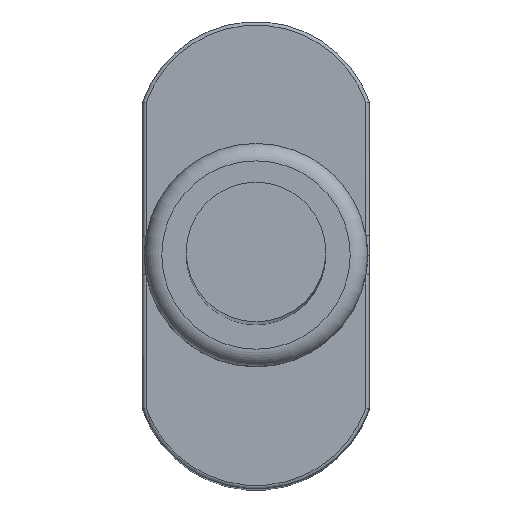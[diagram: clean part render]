
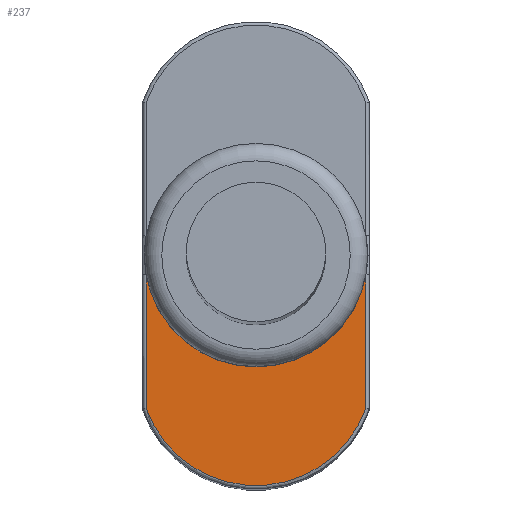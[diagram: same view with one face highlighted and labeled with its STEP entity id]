
A CAD part, top view. The second image highlights one B-rep face of the part: STEP entity #237.
In plain terms, the highlighted planar face has unit normal (0, 0, 1).
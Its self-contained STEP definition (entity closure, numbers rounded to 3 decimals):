
#60 = VERTEX_POINT('',#61);
#61 = CARTESIAN_POINT('',(3.15,-0.563,22.));
#70 = EDGE_CURVE('',#71,#60,#73,.T.);
#71 = VERTEX_POINT('',#72);
#72 = CARTESIAN_POINT('',(-3.15,-0.563,22.));
#73 = CIRCLE('',#74,3.2);
#74 = AXIS2_PLACEMENT_3D('',#75,#76,#77);
#75 = CARTESIAN_POINT('',(0.,0.,22.));
#76 = DIRECTION('',(0.,0.,1.));
#77 = DIRECTION('',(1.,0.,0.));
#237 = ADVANCED_FACE('',(#238),#264,.T.);
#238 = FACE_BOUND('',#239,.T.);
#239 = EDGE_LOOP('',(#240,#241,#249,#258));
#240 = ORIENTED_EDGE('',*,*,#70,.F.);
#241 = ORIENTED_EDGE('',*,*,#242,.F.);
#242 = EDGE_CURVE('',#243,#71,#245,.T.);
#243 = VERTEX_POINT('',#244);
#244 = CARTESIAN_POINT('',(-3.15,-4.383,22.));
#245 = LINE('',#246,#247);
#246 = CARTESIAN_POINT('',(-3.15,-4.4,22.));
#247 = VECTOR('',#248,1.);
#248 = DIRECTION('',(0.,1.,0.));
#249 = ORIENTED_EDGE('',*,*,#250,.T.);
#250 = EDGE_CURVE('',#243,#251,#253,.T.);
#251 = VERTEX_POINT('',#252);
#252 = CARTESIAN_POINT('',(3.15,-4.383,22.));
#253 = CIRCLE('',#254,3.346);
#254 = AXIS2_PLACEMENT_3D('',#255,#256,#257);
#255 = CARTESIAN_POINT('',(0.,-3.254,22.));
#256 = DIRECTION('',(0.,0.,1.));
#257 = DIRECTION('',(-0.943,-0.333,0.));
#258 = ORIENTED_EDGE('',*,*,#259,.F.);
#259 = EDGE_CURVE('',#60,#251,#260,.T.);
#260 = LINE('',#261,#262);
#261 = CARTESIAN_POINT('',(3.15,4.4,22.));
#262 = VECTOR('',#263,1.);
#263 = DIRECTION('',(0.,-1.,0.));
#264 = PLANE('',#265);
#265 = AXIS2_PLACEMENT_3D('',#266,#267,#268);
#266 = CARTESIAN_POINT('',(0.,0.,22.));
#267 = DIRECTION('',(0.,0.,1.));
#268 = DIRECTION('',(1.,0.,0.));
